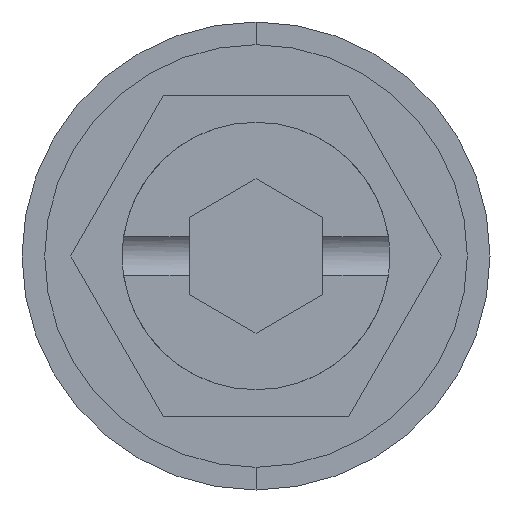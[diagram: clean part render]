
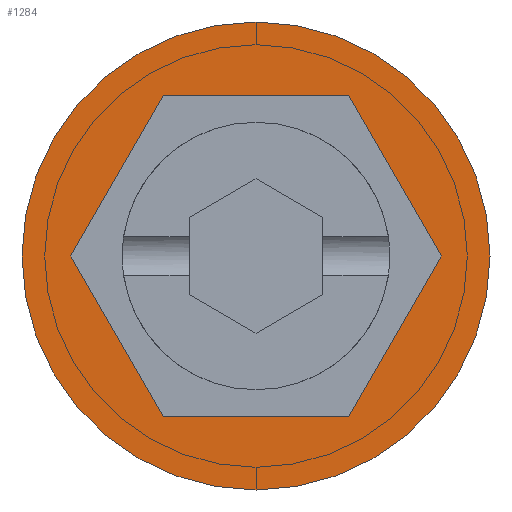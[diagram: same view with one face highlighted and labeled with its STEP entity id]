
A CAD part, front view. The second image highlights one B-rep face of the part: STEP entity #1284.
In plain terms, the highlighted planar face has unit normal (0, -1, 0).
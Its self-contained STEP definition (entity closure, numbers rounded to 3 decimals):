
#15 = FACE_OUTER_BOUND ( 'NONE', #978, .T. ) ;
#60 = LINE ( 'NONE', #1809, #183 ) ;
#72 = LINE ( 'NONE', #1811, #184 ) ;
#83 = FACE_BOUND ( 'NONE', #968, .T. ) ;
#87 = LINE ( 'NONE', #1801, #3266 ) ;
#89 = LINE ( 'NONE', #1803, #3267 ) ;
#151 = LINE ( 'NONE', #1805, #181 ) ;
#154 = LINE ( 'NONE', #1807, #182 ) ;
#181 = VECTOR ( 'NONE', #1806, 1000. ) ;
#182 = VECTOR ( 'NONE', #1808, 1000. ) ;
#183 = VECTOR ( 'NONE', #1810, 1000. ) ;
#184 = VECTOR ( 'NONE', #1812, 1000. ) ;
#222 = CIRCLE ( 'NONE', #234, 8.75 ) ;
#234 = AXIS2_PLACEMENT_3D ( 'NONE', #1930, #1931, #1932 ) ;
#347 = AXIS2_PLACEMENT_3D ( 'NONE', #2730, #2731, #2732 ) ;
#665 = ORIENTED_EDGE ( 'NONE', *, *, #1205, .T. ) ;
#666 = ORIENTED_EDGE ( 'NONE', *, *, #1155, .T. ) ;
#668 = ORIENTED_EDGE ( 'NONE', *, *, #1156, .F. ) ;
#669 = ORIENTED_EDGE ( 'NONE', *, *, #1157, .F. ) ;
#670 = ORIENTED_EDGE ( 'NONE', *, *, #1158, .F. ) ;
#671 = ORIENTED_EDGE ( 'NONE', *, *, #1161, .F. ) ;
#672 = ORIENTED_EDGE ( 'NONE', *, *, #1159, .F. ) ;
#673 = ORIENTED_EDGE ( 'NONE', *, *, #1160, .F. ) ;
#794 = VERTEX_POINT ( 'NONE', #2435 ) ;
#795 = VERTEX_POINT ( 'NONE', #2436 ) ;
#838 = VERTEX_POINT ( 'NONE', #2452 ) ;
#851 = VERTEX_POINT ( 'NONE', #2465 ) ;
#865 = VERTEX_POINT ( 'NONE', #2479 ) ;
#868 = VERTEX_POINT ( 'NONE', #2482 ) ;
#869 = VERTEX_POINT ( 'NONE', #2483 ) ;
#873 = VERTEX_POINT ( 'NONE', #2487 ) ;
#968 = EDGE_LOOP ( 'NONE', ( #673, #671, #672, #670, #669, #668 ) ) ;
#978 = EDGE_LOOP ( 'NONE', ( #665, #666 ) ) ;
#1155 = EDGE_CURVE ( 'NONE', #794, #795, #3263, .T. ) ;
#1156 = EDGE_CURVE ( 'NONE', #868, #869, #87, .T. ) ;
#1157 = EDGE_CURVE ( 'NONE', #869, #851, #89, .T. ) ;
#1158 = EDGE_CURVE ( 'NONE', #851, #865, #151, .T. ) ;
#1159 = EDGE_CURVE ( 'NONE', #865, #838, #154, .T. ) ;
#1160 = EDGE_CURVE ( 'NONE', #873, #868, #60, .T. ) ;
#1161 = EDGE_CURVE ( 'NONE', #838, #873, #72, .T. ) ;
#1205 = EDGE_CURVE ( 'NONE', #795, #794, #222, .T. ) ;
#1284 = ADVANCED_FACE ( 'NONE', ( #83, #15 ), #2729, .T. ) ;
#1798 = CARTESIAN_POINT ( 'NONE',  ( 0., 0., 0. ) ) ;
#1799 = DIRECTION ( 'NONE',  ( 0., -1., 0. ) ) ;
#1800 = DIRECTION ( 'NONE',  ( 0., 0., -1. ) ) ;
#1801 = CARTESIAN_POINT ( 'NONE',  ( 3.464, 0., -6. ) ) ;
#1802 = DIRECTION ( 'NONE',  ( 0.5, 0., 0.866 ) ) ;
#1803 = CARTESIAN_POINT ( 'NONE',  ( 6.928, 0., 0. ) ) ;
#1804 = DIRECTION ( 'NONE',  ( -0.5, 0., 0.866 ) ) ;
#1805 = CARTESIAN_POINT ( 'NONE',  ( 3.464, 0., 6. ) ) ;
#1806 = DIRECTION ( 'NONE',  ( -1., 0., 0. ) ) ;
#1807 = CARTESIAN_POINT ( 'NONE',  ( -3.464, 0., 6. ) ) ;
#1808 = DIRECTION ( 'NONE',  ( -0.5, 0., -0.866 ) ) ;
#1809 = CARTESIAN_POINT ( 'NONE',  ( -3.464, 0., -6. ) ) ;
#1810 = DIRECTION ( 'NONE',  ( 1., 0., 0. ) ) ;
#1811 = CARTESIAN_POINT ( 'NONE',  ( -6.928, 0., 0. ) ) ;
#1812 = DIRECTION ( 'NONE',  ( 0.5, 0., -0.866 ) ) ;
#1930 = CARTESIAN_POINT ( 'NONE',  ( 0., 0., 0. ) ) ;
#1931 = DIRECTION ( 'NONE',  ( 0., -1., 0. ) ) ;
#1932 = DIRECTION ( 'NONE',  ( 0., 0., -1. ) ) ;
#2435 = CARTESIAN_POINT ( 'NONE',  ( 0., 0., 8.75 ) ) ;
#2436 = CARTESIAN_POINT ( 'NONE',  ( 0., 0., -8.75 ) ) ;
#2452 = CARTESIAN_POINT ( 'NONE',  ( -6.928, 0., 0. ) ) ;
#2465 = CARTESIAN_POINT ( 'NONE',  ( 3.464, 0., 6. ) ) ;
#2479 = CARTESIAN_POINT ( 'NONE',  ( -3.464, 0., 6. ) ) ;
#2482 = CARTESIAN_POINT ( 'NONE',  ( 3.464, 0., -6. ) ) ;
#2483 = CARTESIAN_POINT ( 'NONE',  ( 6.928, 0., 0. ) ) ;
#2487 = CARTESIAN_POINT ( 'NONE',  ( -3.464, 0., -6. ) ) ;
#2729 = PLANE ( 'NONE',  #347 ) ;
#2730 = CARTESIAN_POINT ( 'NONE',  ( 0., 0., 0. ) ) ;
#2731 = DIRECTION ( 'NONE',  ( 0., -1., 0. ) ) ;
#2732 = DIRECTION ( 'NONE',  ( 0., 0., -1. ) ) ;
#3263 = CIRCLE ( 'NONE', #3264, 8.75 ) ;
#3264 = AXIS2_PLACEMENT_3D ( 'NONE', #1798, #1799, #1800 ) ;
#3266 = VECTOR ( 'NONE', #1802, 1000. ) ;
#3267 = VECTOR ( 'NONE', #1804, 1000. ) ;
